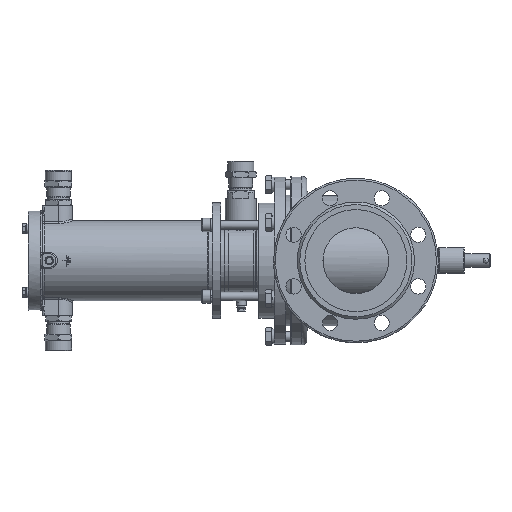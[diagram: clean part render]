
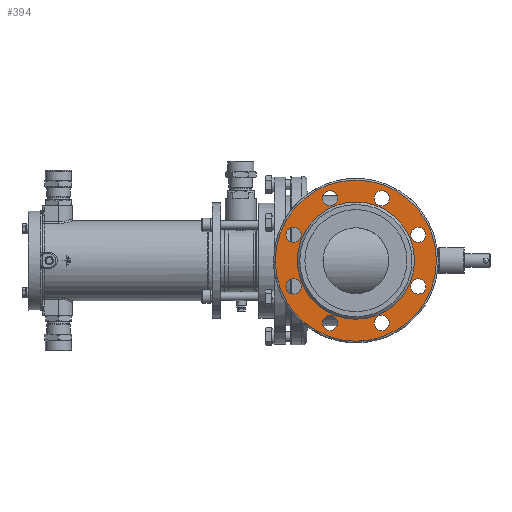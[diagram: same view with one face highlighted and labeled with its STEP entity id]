
A CAD part, left-side view. The second image highlights one B-rep face of the part: STEP entity #394.
In plain terms, the highlighted planar face has unit normal (-1, 0, 0).
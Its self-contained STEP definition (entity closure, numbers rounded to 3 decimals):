
#394=ADVANCED_FACE('',(#8901,#8903,#8905,#8907,#8909,#8911,#8913,#8915,#8917,#8919),
#8921,.T.);
#8901=FACE_BOUND('',#8902,.T.);
#8902=EDGE_LOOP('',(#26627));
#8903=FACE_BOUND('',#8904,.T.);
#8904=EDGE_LOOP('',(#26628));
#8905=FACE_BOUND('',#8906,.T.);
#8906=EDGE_LOOP('',(#26629));
#8907=FACE_BOUND('',#8908,.T.);
#8908=EDGE_LOOP('',(#26630));
#8909=FACE_BOUND('',#8910,.T.);
#8910=EDGE_LOOP('',(#26631));
#8911=FACE_BOUND('',#8912,.T.);
#8912=EDGE_LOOP('',(#26632));
#8913=FACE_BOUND('',#8914,.T.);
#8914=EDGE_LOOP('',(#26633));
#8915=FACE_BOUND('',#8916,.T.);
#8916=EDGE_LOOP('',(#26634));
#8917=FACE_BOUND('',#8918,.T.);
#8918=EDGE_LOOP('',(#26635));
#8919=FACE_OUTER_BOUND('',#8920,.T.);
#8920=EDGE_LOOP('',(#26636));
#8921=PLANE('',#8922);
#8922=AXIS2_PLACEMENT_3D('',#8923,#8924,#8925);
#8923=CARTESIAN_POINT('',(-151.,0.,0.));
#8924=DIRECTION('',(-1.,0.,0.));
#8925=DIRECTION('',(0.,1.,0.));
#26627=ORIENTED_EDGE('',*,*,#39882,.T.);
#26628=ORIENTED_EDGE('',*,*,#39880,.T.);
#26629=ORIENTED_EDGE('',*,*,#39878,.T.);
#26630=ORIENTED_EDGE('',*,*,#39876,.T.);
#26631=ORIENTED_EDGE('',*,*,#39874,.T.);
#26632=ORIENTED_EDGE('',*,*,#39872,.T.);
#26633=ORIENTED_EDGE('',*,*,#39870,.T.);
#26634=ORIENTED_EDGE('',*,*,#39868,.T.);
#26635=ORIENTED_EDGE('',*,*,#39930,.F.);
#26636=ORIENTED_EDGE('',*,*,#39931,.T.);
#39868=EDGE_CURVE('',#45859,#45859,#45861,.T.);
#39870=EDGE_CURVE('',#45862,#45862,#45864,.T.);
#39872=EDGE_CURVE('',#45865,#45865,#45867,.T.);
#39874=EDGE_CURVE('',#45868,#45868,#45870,.T.);
#39876=EDGE_CURVE('',#45871,#45871,#45873,.T.);
#39878=EDGE_CURVE('',#45874,#45874,#45876,.T.);
#39880=EDGE_CURVE('',#45877,#45877,#45879,.T.);
#39882=EDGE_CURVE('',#45880,#45880,#45882,.T.);
#39930=EDGE_CURVE('',#45966,#45966,#45967,.T.);
#39931=EDGE_CURVE('',#45968,#45968,#45969,.T.);
#45859=VERTEX_POINT('',#60674);
#45861=CIRCLE('',#60678,9.);
#45862=VERTEX_POINT('',#60682);
#45864=CIRCLE('',#60686,9.);
#45865=VERTEX_POINT('',#60690);
#45867=CIRCLE('',#60694,9.);
#45868=VERTEX_POINT('',#60698);
#45870=CIRCLE('',#60702,9.);
#45871=VERTEX_POINT('',#60706);
#45873=CIRCLE('',#60710,9.);
#45874=VERTEX_POINT('',#60714);
#45876=CIRCLE('',#60718,9.);
#45877=VERTEX_POINT('',#60722);
#45879=CIRCLE('',#60726,9.);
#45880=VERTEX_POINT('',#60730);
#45882=CIRCLE('',#60734,9.);
#45966=VERTEX_POINT('',#61144);
#45967=CIRCLE('',#61145,69.5);
#45968=VERTEX_POINT('',#61149);
#45969=CIRCLE('',#61150,95.5);
#60674=CARTESIAN_POINT('',(-151.,30.615,64.91));
#60678=AXIS2_PLACEMENT_3D('',#60679,#60680,#60681);
#60679=CARTESIAN_POINT('',(-151.,30.615,73.91));
#60680=DIRECTION('',(1.,0.,0.));
#60681=DIRECTION('',(0.,-1.,0.));
#60682=CARTESIAN_POINT('',(-151.,30.615,-82.91));
#60686=AXIS2_PLACEMENT_3D('',#60687,#60688,#60689);
#60687=CARTESIAN_POINT('',(-151.,30.615,-73.91));
#60688=DIRECTION('',(1.,0.,0.));
#60689=DIRECTION('',(0.,-1.,0.));
#60690=CARTESIAN_POINT('',(-151.,73.91,21.615));
#60694=AXIS2_PLACEMENT_3D('',#60695,#60696,#60697);
#60695=CARTESIAN_POINT('',(-151.,73.91,30.615));
#60696=DIRECTION('',(1.,0.,0.));
#60697=DIRECTION('',(0.,-1.,0.));
#60698=CARTESIAN_POINT('',(-151.,-30.615,-82.91));
#60702=AXIS2_PLACEMENT_3D('',#60703,#60704,#60705);
#60703=CARTESIAN_POINT('',(-151.,-30.615,-73.91));
#60704=DIRECTION('',(1.,0.,0.));
#60705=DIRECTION('',(0.,-1.,0.));
#60706=CARTESIAN_POINT('',(-151.,-73.91,21.615));
#60710=AXIS2_PLACEMENT_3D('',#60711,#60712,#60713);
#60711=CARTESIAN_POINT('',(-151.,-73.91,30.615));
#60712=DIRECTION('',(1.,0.,0.));
#60713=DIRECTION('',(0.,-1.,0.));
#60714=CARTESIAN_POINT('',(-151.,-30.615,64.91));
#60718=AXIS2_PLACEMENT_3D('',#60719,#60720,#60721);
#60719=CARTESIAN_POINT('',(-151.,-30.615,73.91));
#60720=DIRECTION('',(1.,0.,0.));
#60721=DIRECTION('',(0.,-1.,0.));
#60722=CARTESIAN_POINT('',(-151.,73.91,-39.615));
#60726=AXIS2_PLACEMENT_3D('',#60727,#60728,#60729);
#60727=CARTESIAN_POINT('',(-151.,73.91,-30.615));
#60728=DIRECTION('',(1.,0.,0.));
#60729=DIRECTION('',(0.,-1.,0.));
#60730=CARTESIAN_POINT('',(-151.,-73.91,-39.615));
#60734=AXIS2_PLACEMENT_3D('',#60735,#60736,#60737);
#60735=CARTESIAN_POINT('',(-151.,-73.91,-30.615));
#60736=DIRECTION('',(1.,0.,0.));
#60737=DIRECTION('',(0.,-1.,0.));
#61144=CARTESIAN_POINT('',(-151.,-69.5,0.));
#61145=AXIS2_PLACEMENT_3D('',#61146,#61147,#61148);
#61146=CARTESIAN_POINT('',(-151.,0.,0.));
#61147=DIRECTION('',(-1.,0.,0.));
#61148=DIRECTION('',(0.,1.,0.));
#61149=CARTESIAN_POINT('',(-151.,-95.5,0.));
#61150=AXIS2_PLACEMENT_3D('',#61151,#61152,#61153);
#61151=CARTESIAN_POINT('',(-151.,0.,0.));
#61152=DIRECTION('',(-1.,0.,0.));
#61153=DIRECTION('',(0.,1.,0.));
